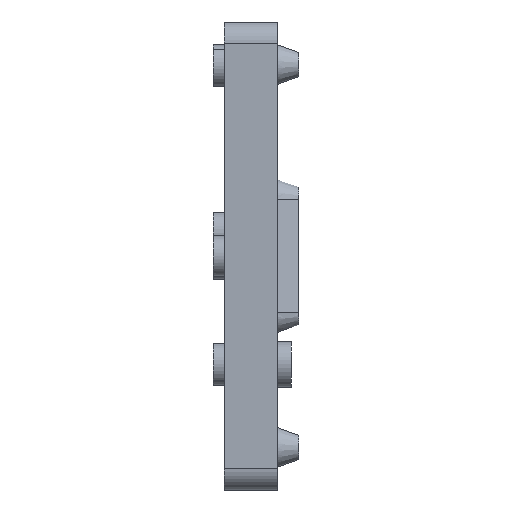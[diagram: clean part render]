
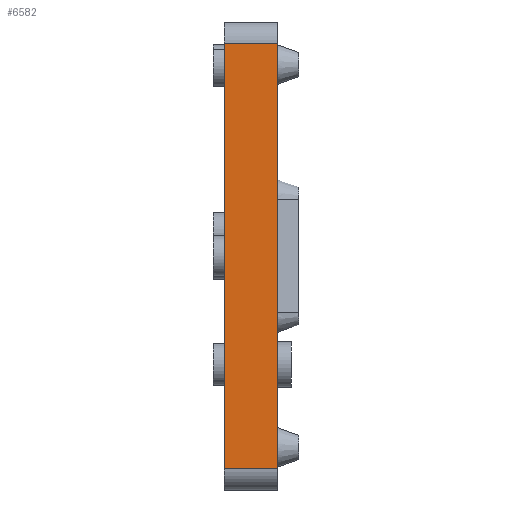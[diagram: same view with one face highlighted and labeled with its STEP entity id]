
A CAD part, left-side view. The second image highlights one B-rep face of the part: STEP entity #6582.
In plain terms, the highlighted planar face has unit normal (-1, 0, 0).
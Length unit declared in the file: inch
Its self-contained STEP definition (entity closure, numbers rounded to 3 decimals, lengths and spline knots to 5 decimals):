
#145 = VERTEX_POINT ( 'NONE', #28443 ) ;
#610 = LINE ( 'NONE', #42285, #18248 ) ;
#5491 = CARTESIAN_POINT ( 'NONE',  ( -2.0625, 0., 0. ) ) ;
#6582 = ADVANCED_FACE ( 'NONE', ( #64904 ), #14386, .T. ) ;
#7672 = EDGE_CURVE ( 'NONE', #10006, #54170, #610, .T. ) ;
#8371 = ORIENTED_EDGE ( 'NONE', *, *, #63392, .F. ) ;
#8441 = CARTESIAN_POINT ( 'NONE',  ( -2.0625, 0.46875, 1.875 ) ) ;
#10006 = VERTEX_POINT ( 'NONE', #50682 ) ;
#13037 = CARTESIAN_POINT ( 'NONE',  ( -2.0625, 0., -1.875 ) ) ;
#14386 = PLANE ( 'NONE',  #52796 ) ;
#16355 = DIRECTION ( 'NONE',  ( 0., 1., 0. ) ) ;
#18248 = VECTOR ( 'NONE', #16355, 39.37008 ) ;
#23593 = EDGE_CURVE ( 'NONE', #145, #54170, #45361, .T. ) ;
#25318 = DIRECTION ( 'NONE',  ( 0., 0., -1. ) ) ;
#28443 = CARTESIAN_POINT ( 'NONE',  ( -2.0625, 0.46875, -1.875 ) ) ;
#29090 = DIRECTION ( 'NONE',  ( 0., -1., 0. ) ) ;
#29433 = CARTESIAN_POINT ( 'NONE',  ( -2.0625, 0.0625, -1.875 ) ) ;
#30429 = LINE ( 'NONE', #5491, #30478 ) ;
#30478 = VECTOR ( 'NONE', #25318, 39.37008 ) ;
#32146 = VERTEX_POINT ( 'NONE', #13037 ) ;
#34240 = VECTOR ( 'NONE', #39578, 39.37008 ) ;
#34525 = EDGE_CURVE ( 'NONE', #145, #32146, #64932, .T. ) ;
#39578 = DIRECTION ( 'NONE',  ( 0., 0., 1. ) ) ;
#39750 = ORIENTED_EDGE ( 'NONE', *, *, #7672, .T. ) ;
#42285 = CARTESIAN_POINT ( 'NONE',  ( -2.0625, 0.4375, 1.875 ) ) ;
#44705 = CARTESIAN_POINT ( 'NONE',  ( -2.0625, 0.46875, -1.875 ) ) ;
#45361 = LINE ( 'NONE', #44705, #34240 ) ;
#50550 = DIRECTION ( 'NONE',  ( 0., 0., 1. ) ) ;
#50682 = CARTESIAN_POINT ( 'NONE',  ( -2.0625, 0., 1.875 ) ) ;
#52796 = AXIS2_PLACEMENT_3D ( 'NONE', #65892, #60442, #50550 ) ;
#53059 = EDGE_LOOP ( 'NONE', ( #39750, #55322, #62284, #8371 ) ) ;
#54170 = VERTEX_POINT ( 'NONE', #8441 ) ;
#55322 = ORIENTED_EDGE ( 'NONE', *, *, #23593, .F. ) ;
#57412 = VECTOR ( 'NONE', #29090, 39.37008 ) ;
#60442 = DIRECTION ( 'NONE',  ( -1., 0., 0. ) ) ;
#62284 = ORIENTED_EDGE ( 'NONE', *, *, #34525, .T. ) ;
#63392 = EDGE_CURVE ( 'NONE', #10006, #32146, #30429, .T. ) ;
#64904 = FACE_OUTER_BOUND ( 'NONE', #53059, .T. ) ;
#64932 = LINE ( 'NONE', #29433, #57412 ) ;
#65892 = CARTESIAN_POINT ( 'NONE',  ( -2.0625, 0.0625, 0. ) ) ;
